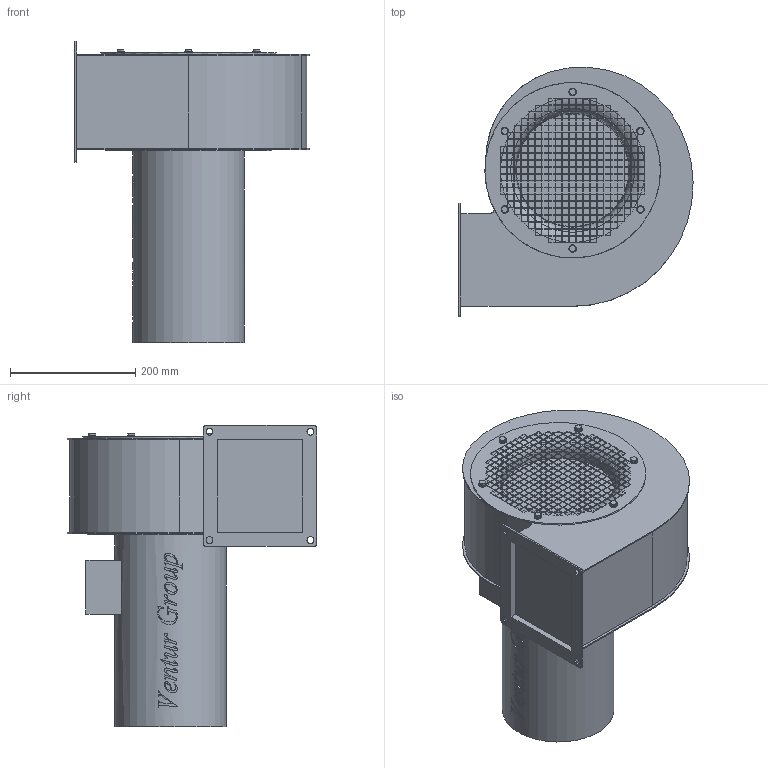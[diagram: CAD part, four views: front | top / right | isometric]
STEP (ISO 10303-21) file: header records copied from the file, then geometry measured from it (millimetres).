
FILE_DESCRIPTION(/* description */ (''),/* implementation_level */ '2;1');
FILE_NAME(/* name */ 'E:\Mariusz\Modele uproszczone\GFB\GFB_2_225_104 LG270 435030190\GFB_2_225_104 LG270 435030190\GFB_2_225_104 LG270 435030190.stp',/* time_stamp */ '2019-01-14T10:29:16+01:00',/* author */ ('M.Janczarek'),/* organization */ (''),/* preprocessor_version */ 'ST-DEVELOPER v16.13',/* originating_system */ 'Autodesk Inventor 2018',/* authorisation */ '');
FILE_SCHEMA (('AUTOMOTIVE_DESIGN { 1 0 10303 214 3 1 1 }'));
Products named in the file (1): GFB_2_225_104 LG270 435030190
Bounding box: 373.69 x 397.92 x 480.5 mm (x, y, z)
Volume: 23502079.2 mm3; surface area: 701005.8 mm2
Topology: 1 solids, 1 shells, 2162 faces, 6320 edges, 4150 vertices
Faces by surface type: plane 1636, bspline 388, cylinder 93, cone 42, torus 3
Full cylindrical faces by diameter (mm): 5.459 x6, 6 x6, 7.1 x6, 8.7 x6, 11 x4, 178 x1, 265 x1, 280 x1
Entity records: 80051 total; most frequent: CARTESIAN_POINT 22305, ORIENTED_EDGE 12520, DIRECTION 9474, EDGE_CURVE 6260, LINE 5080, VECTOR 5080, VERTEX_POINT 4130, EDGE_LOOP 2908
